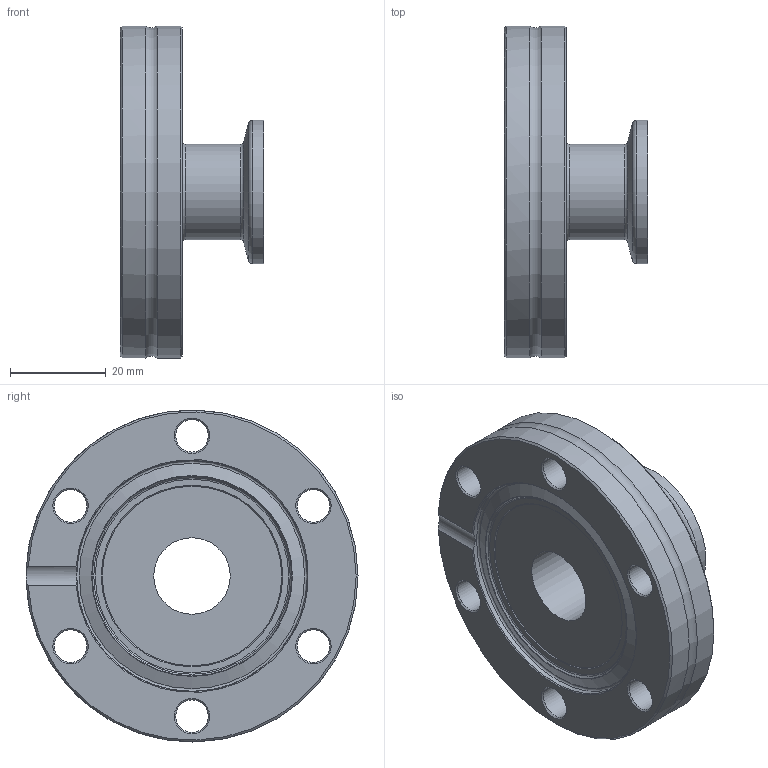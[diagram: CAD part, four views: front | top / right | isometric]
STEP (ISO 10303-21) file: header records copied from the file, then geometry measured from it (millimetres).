
FILE_DESCRIPTION((''),'2;1');
FILE_NAME('W:\13785_CF_Global_Fit_Umsetzung\129_Adapter_CF-F_ISO-KF\M213-254.stp','2010-09-01T13:17:03',('KAA'),(''),'Autodesk Inventor 2011','Autodesk Inventor 2011','');
FILE_SCHEMA(('AUTOMOTIVE_DESIGN { 1 0 10303 214 1 1 1 1 }'));
Length unit declared in the file: millimetre
Products named in the file (1): 213-254
Bounding box: 30 x 69.5 x 69.5 mm (x, y, z)
Volume: 44813.3 mm3; surface area: 14677.5 mm2
Topology: 1 solids, 1 shells, 46 faces, 104 edges, 63 vertices
Faces by surface type: cone 20, cylinder 13, torus 7, plane 6
Full cylindrical faces by diameter (mm): 6.8 x6, 16 x1, 17.2 x1, 20 x1, 30 x1, 69.5 x2
Entity records: 1114 total; most frequent: CARTESIAN_POINT 198, DIRECTION 198, ORIENTED_EDGE 120, EDGE_LOOP 100, AXIS2_PLACEMENT_3D 98, EDGE_CURVE 60, VERTEX_POINT 56, FACE_BOUND 54
